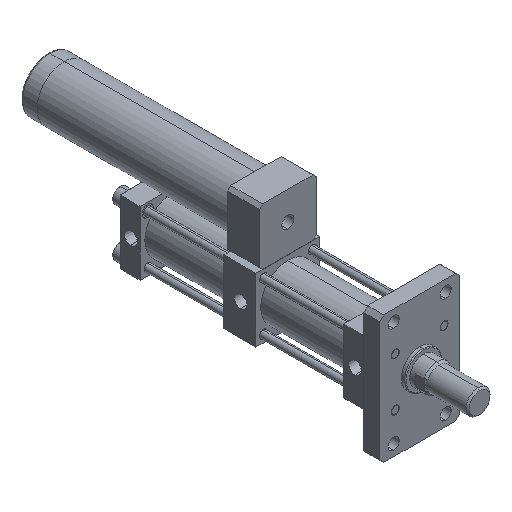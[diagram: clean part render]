
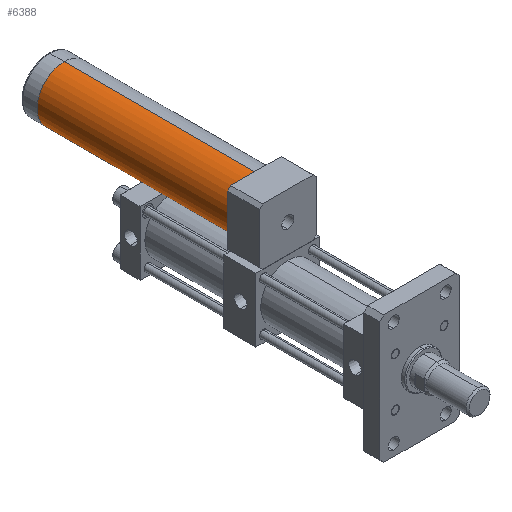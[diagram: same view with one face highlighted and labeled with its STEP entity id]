
A CAD part, isometric view. The second image highlights one B-rep face of the part: STEP entity #6388.
In plain terms, the highlighted cylindrical face has radius 34 mm (diameter 68 mm), a partial arc.
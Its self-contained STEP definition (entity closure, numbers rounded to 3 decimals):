
#286 = ORIENTED_EDGE ( 'NONE', *, *, #523, .T. ) ;
#504 = VECTOR ( 'NONE', #4840, 1000. ) ;
#523 = EDGE_CURVE ( 'NONE', #1805, #5157, #667, .T. ) ;
#624 = CIRCLE ( 'NONE', #1774, 34. ) ;
#667 = LINE ( 'NONE', #5394, #504 ) ;
#1074 = VERTEX_POINT ( 'NONE', #2525 ) ;
#1109 = CARTESIAN_POINT ( 'NONE',  ( 0., 390., 41.5 ) ) ;
#1448 = CARTESIAN_POINT ( 'NONE',  ( 0., 390., 75.5 ) ) ;
#1668 = CYLINDRICAL_SURFACE ( 'NONE', #2576, 34. ) ;
#1774 = AXIS2_PLACEMENT_3D ( 'NONE', #2406, #6301, #2959 ) ;
#1805 = VERTEX_POINT ( 'NONE', #1109 ) ;
#2007 = DIRECTION ( 'NONE',  ( 0., 0., 1. ) ) ;
#2406 = CARTESIAN_POINT ( 'NONE',  ( 0., 150., 75.5 ) ) ;
#2525 = CARTESIAN_POINT ( 'NONE',  ( 0., 150., 109.5 ) ) ;
#2576 = AXIS2_PLACEMENT_3D ( 'NONE', #3296, #2730, #6640 ) ;
#2730 = DIRECTION ( 'NONE',  ( 0., -1., 0. ) ) ;
#2959 = DIRECTION ( 'NONE',  ( 0., 0., 1. ) ) ;
#3012 = VECTOR ( 'NONE', #6825, 1000. ) ;
#3205 = EDGE_CURVE ( 'NONE', #6742, #1074, #3366, .T. ) ;
#3280 = EDGE_LOOP ( 'NONE', ( #5047, #4501, #286, #6289 ) ) ;
#3296 = CARTESIAN_POINT ( 'NONE',  ( 0., 390., 75.5 ) ) ;
#3366 = LINE ( 'NONE', #6273, #3012 ) ;
#3638 = CARTESIAN_POINT ( 'NONE',  ( 0., 390., 109.5 ) ) ;
#3789 = EDGE_CURVE ( 'NONE', #1805, #6742, #6760, .T. ) ;
#4501 = ORIENTED_EDGE ( 'NONE', *, *, #3789, .F. ) ;
#4840 = DIRECTION ( 'NONE',  ( 0., -1., 0. ) ) ;
#5047 = ORIENTED_EDGE ( 'NONE', *, *, #3205, .F. ) ;
#5150 = AXIS2_PLACEMENT_3D ( 'NONE', #1448, #5363, #2007 ) ;
#5157 = VERTEX_POINT ( 'NONE', #7124 ) ;
#5363 = DIRECTION ( 'NONE',  ( 0., 1., 0. ) ) ;
#5394 = CARTESIAN_POINT ( 'NONE',  ( 0., 390., 41.5 ) ) ;
#6273 = CARTESIAN_POINT ( 'NONE',  ( 0., 390., 109.5 ) ) ;
#6289 = ORIENTED_EDGE ( 'NONE', *, *, #7027, .T. ) ;
#6301 = DIRECTION ( 'NONE',  ( 0., 1., 0. ) ) ;
#6388 = ADVANCED_FACE ( 'NONE', ( #6464 ), #1668, .T. ) ;
#6464 = FACE_OUTER_BOUND ( 'NONE', #3280, .T. ) ;
#6640 = DIRECTION ( 'NONE',  ( 0., 0., -1. ) ) ;
#6742 = VERTEX_POINT ( 'NONE', #3638 ) ;
#6760 = CIRCLE ( 'NONE', #5150, 34. ) ;
#6825 = DIRECTION ( 'NONE',  ( 0., -1., 0. ) ) ;
#7027 = EDGE_CURVE ( 'NONE', #5157, #1074, #624, .T. ) ;
#7124 = CARTESIAN_POINT ( 'NONE',  ( 0., 150., 41.5 ) ) ;
